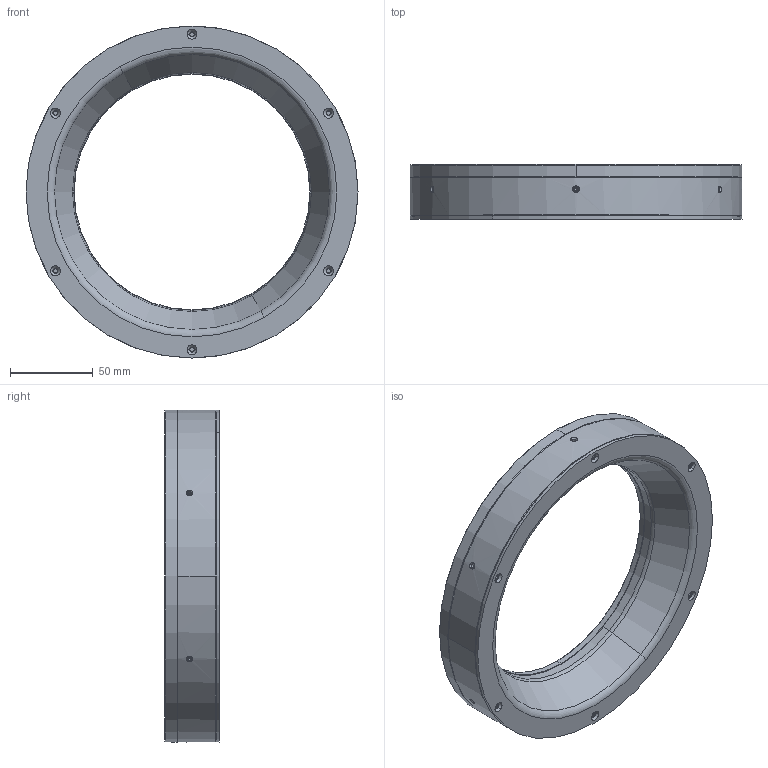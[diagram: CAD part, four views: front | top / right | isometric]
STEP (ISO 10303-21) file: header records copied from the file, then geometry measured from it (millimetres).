
FILE_DESCRIPTION (( 'STEP AP203' ), '1' );
FILE_NAME ('CRT-RL20030-¼òÒ×3DÍ¼.STEP', '2021-12-22T06:52:11', ( 'Admin' ), ( '' ), 'SwSTEP 2.0', 'SolidWorks 2018', '' );
FILE_SCHEMA (( 'CONFIG_CONTROL_DESIGN' ));
Length unit declared in the file: millimetre
Products named in the file (1): CRT-RL20030-潠眢3D芞
Bounding box: 200 x 33 x 200 mm (x, y, z)
Surface area: 102715.8 mm2 (no closed solid volume)
Topology: 0 solids, 4 shells, 110 faces, 300 edges, 194 vertices
Faces by surface type: cylinder 58, cone 36, plane 11, torus 4, bspline 1
Entity records: 4632 total; most frequent: CARTESIAN_POINT 1728, DIRECTION 618, ORIENTED_EDGE 528, EDGE_CURVE 300, AXIS2_PLACEMENT_3D 254, VERTEX_POINT 194, EDGE_LOOP 148, CIRCLE 144
